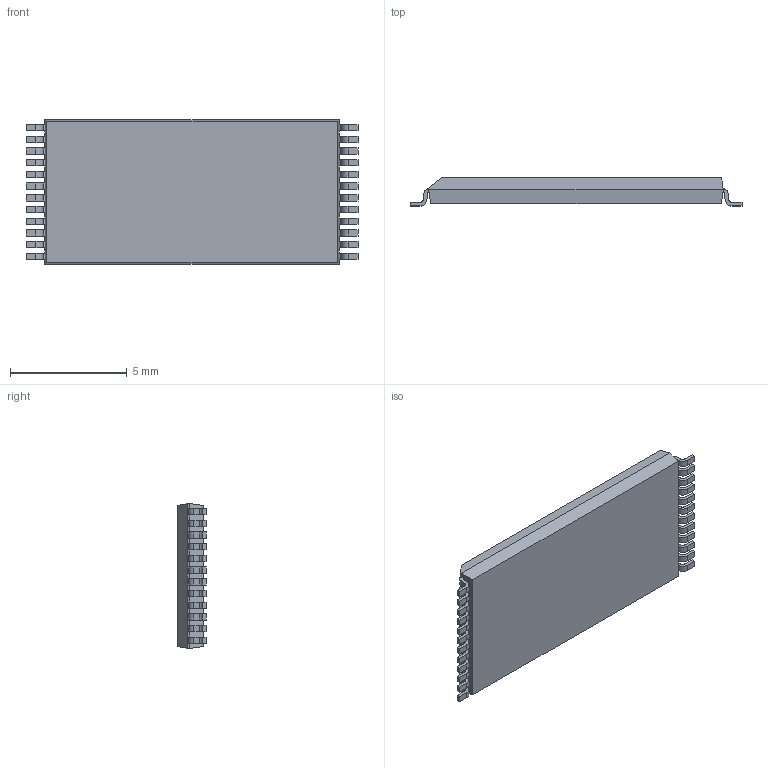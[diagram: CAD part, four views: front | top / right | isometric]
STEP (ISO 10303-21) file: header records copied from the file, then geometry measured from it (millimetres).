
FILE_DESCRIPTION (( 'STEP AP214' ), '1' );
FILE_NAME ('TSSOP50P1400X120-24_MO-142.AA.STEP', '2014-10-29T11:00:14', ( 'Tester2' ), ( '' ), 'SwSTEP 2.0', 'SolidWorks 2012', '' );
FILE_SCHEMA (( 'AUTOMOTIVE_DESIGN' ));
Length unit declared in the file: millimetre
Products named in the file (1): TSSOP50P1400X120-24_MO-142.AA
Bounding box: 14.2 x 1.2 x 6.2 mm (x, y, z)
Volume: 84.9 mm3; surface area: 215 mm2
Topology: 1 solids, 1 shells, 278 faces, 821 edges, 546 vertices
Faces by surface type: plane 180, cylinder 98
Entity records: 12240 total; most frequent: CARTESIAN_POINT 1646, ORIENTED_EDGE 1642, DIRECTION 1575, EDGE_CURVE 821, LINE 625, VECTOR 625, VERTEX_POINT 546, AXIS2_PLACEMENT_3D 475
